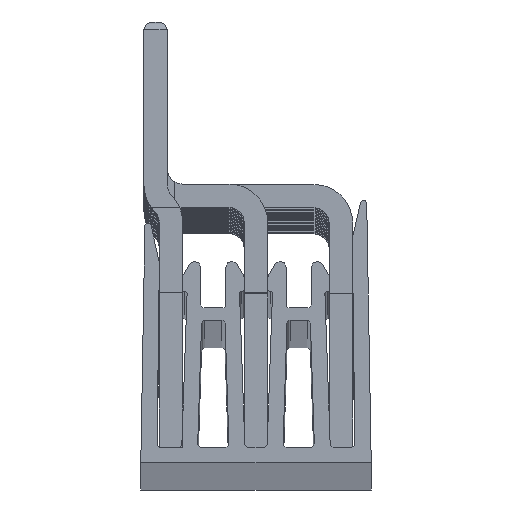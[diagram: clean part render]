
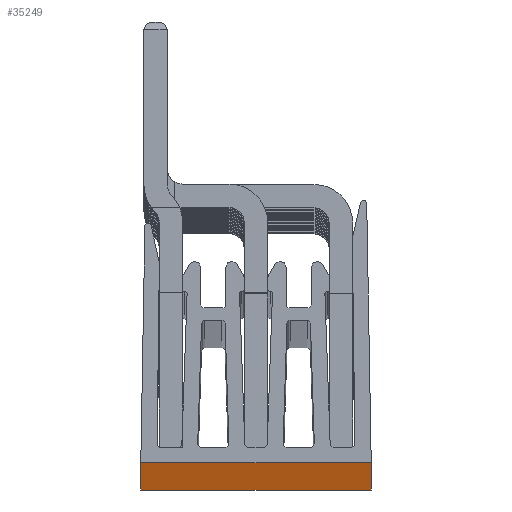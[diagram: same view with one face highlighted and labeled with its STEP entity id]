
A CAD part, top view. The second image highlights one B-rep face of the part: STEP entity #35249.
In plain terms, the highlighted planar face has unit normal (0, -1, 0).
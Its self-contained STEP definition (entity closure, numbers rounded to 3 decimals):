
#35249 = ADVANCED_FACE ( 'NONE', ( #40492 ), #40475, .F. ) ;
#35253 = EDGE_LOOP ( 'NONE', ( #35256, #35543, #35549, #35552 ) ) ;
#35256 = ORIENTED_EDGE ( 'NONE', *, *, #35257, .T. ) ;
#35257 = EDGE_CURVE ( 'NONE', #35346, #35260, #40470, .T. ) ;
#35260 = VERTEX_POINT ( 'NONE', #40519 ) ;
#35346 = VERTEX_POINT ( 'NONE', #40694 ) ;
#35413 = EDGE_CURVE ( 'NONE', #35415, #35346, #40737, .T. ) ;
#35415 = VERTEX_POINT ( 'NONE', #40733 ) ;
#35543 = ORIENTED_EDGE ( 'NONE', *, *, #35545, .F. ) ;
#35545 = EDGE_CURVE ( 'NONE', #35547, #35260, #40903, .T. ) ;
#35547 = VERTEX_POINT ( 'NONE', #40899 ) ;
#35549 = ORIENTED_EDGE ( 'NONE', *, *, #35551, .F. ) ;
#35551 = EDGE_CURVE ( 'NONE', #35415, #35547, #40956, .T. ) ;
#35552 = ORIENTED_EDGE ( 'NONE', *, *, #35413, .T. ) ;
#40467 = DIRECTION ( 'NONE',  ( 1., 0., 0. ) ) ;
#40468 = VECTOR ( 'NONE', #40467, 1000. ) ;
#40469 = CARTESIAN_POINT ( 'NONE',  ( 0., 0., -508. ) ) ;
#40470 = LINE ( 'NONE', #40469, #40468 ) ;
#40471 = DIRECTION ( 'NONE',  ( 0., 0., 1. ) ) ;
#40472 = DIRECTION ( 'NONE',  ( 0., 1., 0. ) ) ;
#40473 = CARTESIAN_POINT ( 'NONE',  ( 0., 0., 508. ) ) ;
#40474 = AXIS2_PLACEMENT_3D ( 'NONE', #40473, #40472, #40471 ) ;
#40475 = PLANE ( 'NONE',  #40474 ) ;
#40492 = FACE_OUTER_BOUND ( 'NONE', #35253, .T. ) ;
#40519 = CARTESIAN_POINT ( 'NONE',  ( 7.45, 0., -508. ) ) ;
#40694 = CARTESIAN_POINT ( 'NONE',  ( -7.45, 0., -508. ) ) ;
#40733 = CARTESIAN_POINT ( 'NONE',  ( -7.45, 0., 508. ) ) ;
#40734 = DIRECTION ( 'NONE',  ( 0., 0., -1. ) ) ;
#40735 = VECTOR ( 'NONE', #40734, 1000. ) ;
#40736 = CARTESIAN_POINT ( 'NONE',  ( -7.45, 0., 508. ) ) ;
#40737 = LINE ( 'NONE', #40736, #40735 ) ;
#40899 = CARTESIAN_POINT ( 'NONE',  ( 7.45, 0., 508. ) ) ;
#40900 = DIRECTION ( 'NONE',  ( 0., 0., -1. ) ) ;
#40901 = VECTOR ( 'NONE', #40900, 1000. ) ;
#40902 = CARTESIAN_POINT ( 'NONE',  ( 7.45, 0., 508. ) ) ;
#40903 = LINE ( 'NONE', #40902, #40901 ) ;
#40953 = DIRECTION ( 'NONE',  ( 1., 0., 0. ) ) ;
#40954 = VECTOR ( 'NONE', #40953, 1000. ) ;
#40955 = CARTESIAN_POINT ( 'NONE',  ( 0., 0., 508. ) ) ;
#40956 = LINE ( 'NONE', #40955, #40954 ) ;
